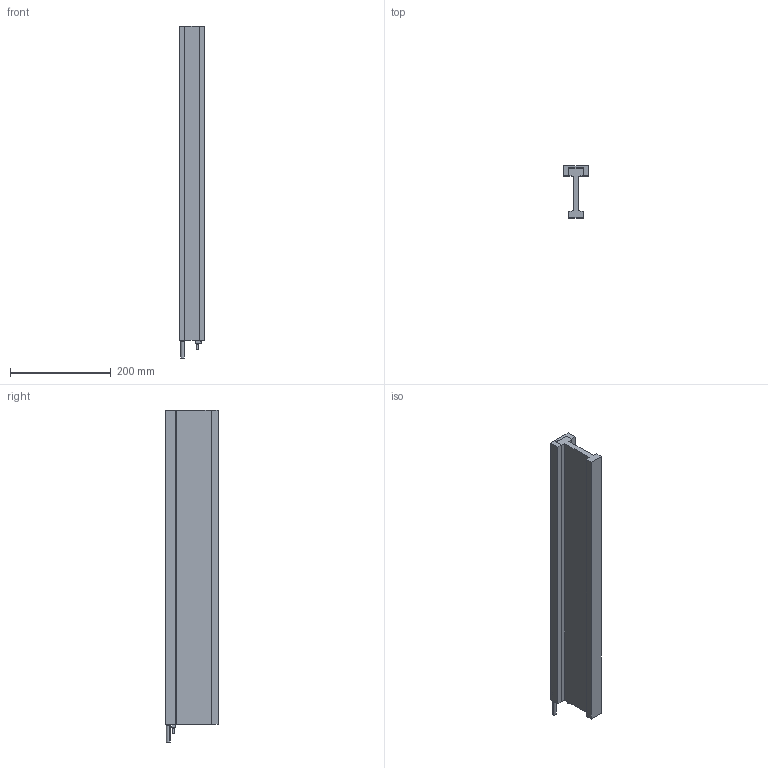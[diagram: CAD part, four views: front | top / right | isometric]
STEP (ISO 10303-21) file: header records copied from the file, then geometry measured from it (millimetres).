
FILE_DESCRIPTION (( 'STEP AP214' ), '1' );
FILE_NAME ('DX65F-C10.step', '2022-09-22T03:37:23', ( '' ), ( '' ), 'SwSTEP 2.0', 'SolidWorks 2020', '' );
FILE_SCHEMA (( 'AUTOMOTIVE_DESIGN' ));
Length unit declared in the file: millimetre
Products named in the file (1): DX65F-C10
Bounding box: 49 x 104 x 660 mm (x, y, z)
Volume: 1341262.4 mm3; surface area: 295196.6 mm2
Topology: 7 solids, 7 shells, 222 faces, 520 edges, 295 vertices
Faces by surface type: plane 80, cylinder 76, cone 58, torus 8
Entity records: 8534 total; most frequent: DIRECTION 1094, CARTESIAN_POINT 1056, ORIENTED_EDGE 940, EDGE_CURVE 470, AXIS2_PLACEMENT_3D 405, VERTEX_POINT 295, LINE 284, VECTOR 284
